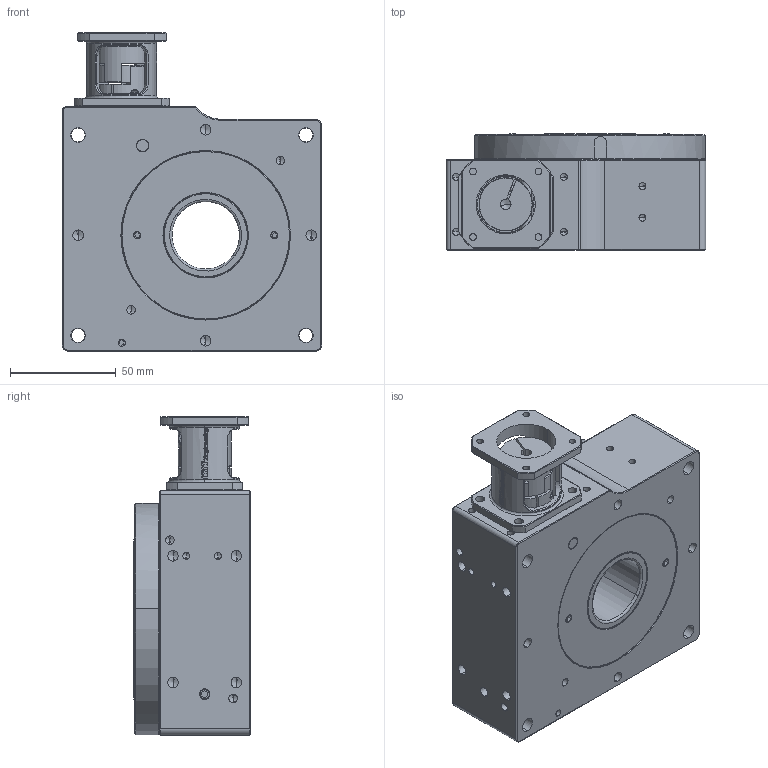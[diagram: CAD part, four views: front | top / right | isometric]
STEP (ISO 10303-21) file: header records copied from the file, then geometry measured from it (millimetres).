
FILE_DESCRIPTION (( 'STEP AP203' ), '1' );
FILE_NAME ('MDT360110-SG-I40-AK-B.STEP', '2018-08-24T15:14:30', ( '' ), ( '' ), 'SwSTEP 2.0', 'SolidWorks 2016', '' );
FILE_SCHEMA (( 'CONFIG_CONTROL_DESIGN' ));
Length unit declared in the file: millimetre
Products named in the file (3): MDT360110-000-01-Gehäuse-komplett; MDT360110-000-02-Drehscheibe-komplett; MDT360110-SG-I40-AK-B
Assembly tree (2 placements, depth 2):
  MDT360110-SG-I40-AK-B
    MDT360110-000-01-Gehäuse-komplett
    MDT360110-000-02-Drehscheibe-komplett
Bounding box: 123 x 55 x 151 mm (x, y, z)
Volume: 527650.1 mm3; surface area: 191385.3 mm2
Topology: 54 solids, 55 shells, 1702 faces, 4071 edges, 2490 vertices
Faces by surface type: cylinder 520, plane 406, bspline 308, cone 242, torus 222, sphere 4
Entity records: 64764 total; most frequent: CARTESIAN_POINT 28290, ORIENTED_EDGE 7942, DIRECTION 6617, EDGE_CURVE 3971, AXIS2_PLACEMENT_3D 2719, VERTEX_POINT 2490, EDGE_LOOP 1893, FACE_OUTER_BOUND 1702
